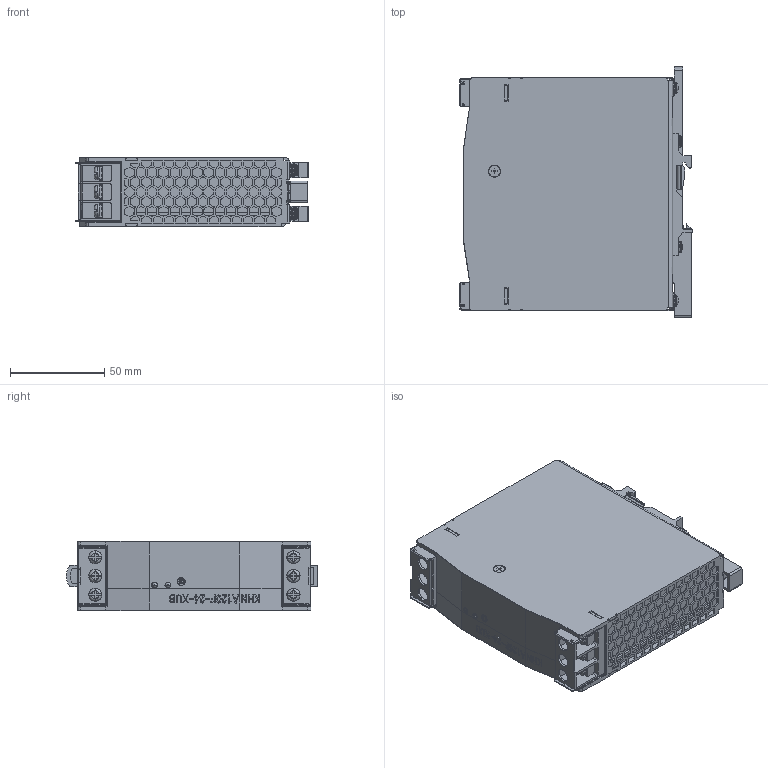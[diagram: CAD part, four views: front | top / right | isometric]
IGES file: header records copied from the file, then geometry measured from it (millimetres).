
Start section: Elysium IGES Interface
Global section: file name: 52HY:\data\KHA\3D\KHNA-XUB\提出用\khna120f-xub(igs).igs; native system: CoCreate Modeling 17.0  01-Apr-2010; preprocessor: CoCreate IGES_3D V2.2; author: Unknown; organization: Unknown; date: 20161130.143201; units: millimetre
Bounding box: 123.7 x 133.47 x 37 mm (x, y, z)
Volume: 479893.1 mm3; surface area: 89619.8 mm2
Topology: 1 solids, 15 shells, 5408 faces, 15834 edges, 10390 vertices
Faces by surface type: bspline 5408
